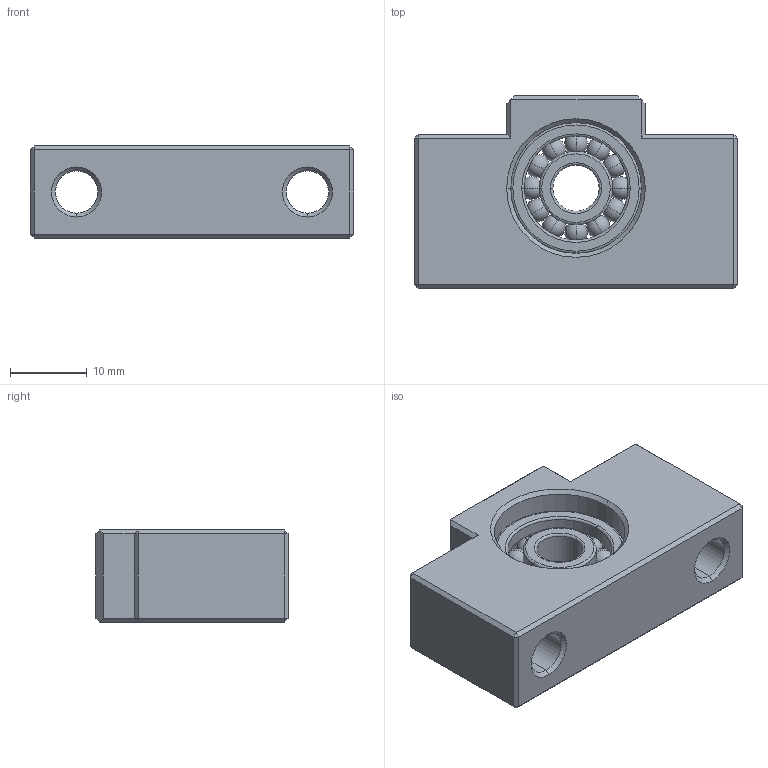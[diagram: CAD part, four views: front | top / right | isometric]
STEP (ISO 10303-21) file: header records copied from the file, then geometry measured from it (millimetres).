
FILE_DESCRIPTION (( 'STEP AP203' ), '1' );
FILE_NAME ('EF06²Õ¦X¥ó.STEP', '2017-12-27T08:24:52', ( '' ), ( '' ), 'SwSTEP 2.0', 'SolidWorks 2017', '' );
FILE_SCHEMA (( 'CONFIG_CONTROL_DESIGN' ));
Length unit declared in the file: millimetre
Products named in the file (1): EF06組合件
Bounding box: 42 x 25 x 12 mm (x, y, z)
Surface area: 5353 mm2 (no closed solid volume)
Topology: 0 solids, 15 shells, 118 faces, 288 edges, 176 vertices
Faces by surface type: plane 44, sphere 24, cylinder 20, torus 18, cone 12
Entity records: 3037 total; most frequent: DIRECTION 580, CARTESIAN_POINT 487, ORIENTED_EDGE 440, AXIS2_PLACEMENT_3D 233, EDGE_CURVE 228, VERTEX_POINT 140, EDGE_LOOP 128, ADVANCED_FACE 118
